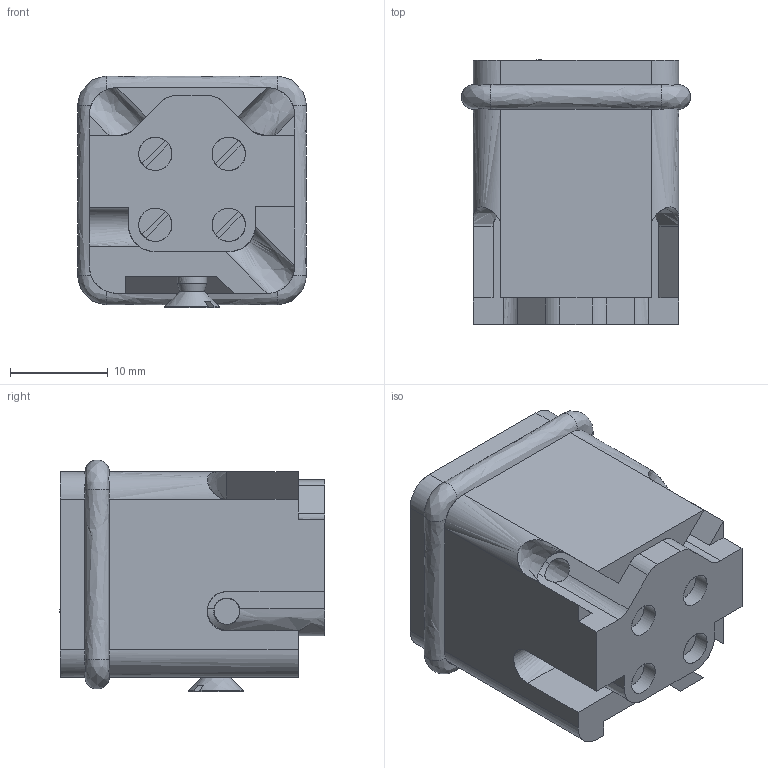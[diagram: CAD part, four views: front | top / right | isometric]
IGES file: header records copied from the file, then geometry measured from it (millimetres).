
Start section: VISI Layer Mapping Iges    VISI  0      LAYER0  1      WARNINGS
Global section: file name: G:\Produktkommunikation\Support\CD-Online-Katalog\3D Daten Produkte\E2702\E2702_3A.igs; native system: VISI 20.0; preprocessor: 2.0; author: nus; organization: Unknown; date: 20130402.120915; units: millimetre
Bounding box: 23.4 x 27.1 x 23.7 mm (x, y, z)
Surface area: 4617.2 mm2 (no closed solid volume)
Topology: 0 solids, 0 shells, 186 faces, 1627 edges, 1600 vertices
Faces by surface type: bspline 186
